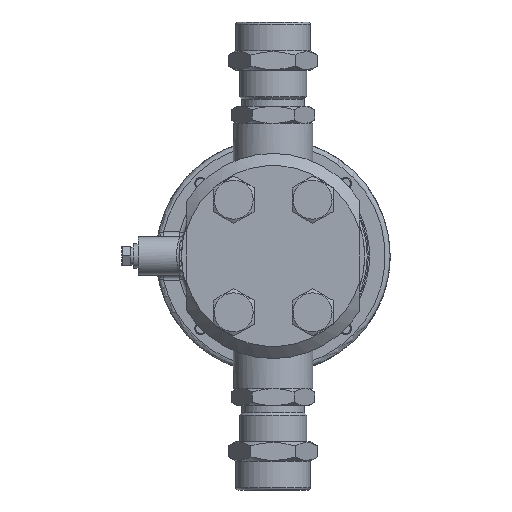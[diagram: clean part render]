
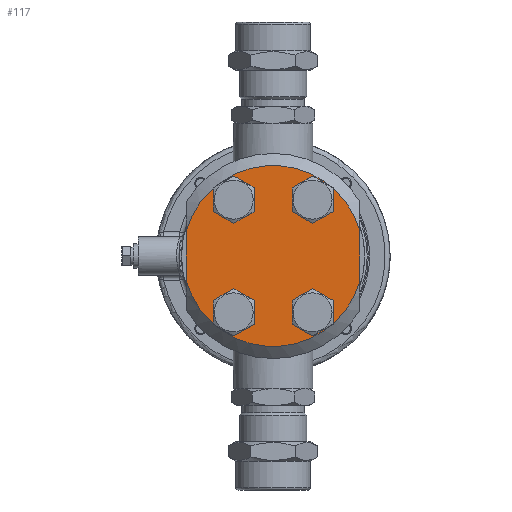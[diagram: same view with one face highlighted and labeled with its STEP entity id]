
A CAD part, front view. The second image highlights one B-rep face of the part: STEP entity #117.
In plain terms, the highlighted planar face has unit normal (0, -1, 0).
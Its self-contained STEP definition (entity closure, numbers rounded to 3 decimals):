
#117=ADVANCED_FACE('',(#4842,#4844,#4846,#4848,#4850),#4852,.T.);
#4842=FACE_BOUND('',#4843,.T.);
#4843=EDGE_LOOP('',(#19386,#19387,#19388,#19389,#19390));
#4844=FACE_BOUND('',#4845,.T.);
#4845=EDGE_LOOP('',(#19391,#19392,#19393,#19394,#19395));
#4846=FACE_BOUND('',#4847,.T.);
#4847=EDGE_LOOP('',(#19396,#19397,#19398,#19399,#19400));
#4848=FACE_BOUND('',#4849,.T.);
#4849=EDGE_LOOP('',(#19401,#19402,#19403,#19404));
#4850=FACE_OUTER_BOUND('',#4851,.T.);
#4851=EDGE_LOOP('',(#19405,#19406,#19407,#19408));
#4852=PLANE('',#4853);
#4853=AXIS2_PLACEMENT_3D('',#4854,#4855,#4856);
#4854=CARTESIAN_POINT('',(0.,-23.,0.));
#4855=DIRECTION('',(-0.,-1.,-0.));
#4856=DIRECTION('',(1.,0.,0.));
#19386=ORIENTED_EDGE('',*,*,#32064,.F.);
#19387=ORIENTED_EDGE('',*,*,#32065,.T.);
#19388=ORIENTED_EDGE('',*,*,#32066,.T.);
#19389=ORIENTED_EDGE('',*,*,#32067,.F.);
#19390=ORIENTED_EDGE('',*,*,#32068,.F.);
#19391=ORIENTED_EDGE('',*,*,#32069,.F.);
#19392=ORIENTED_EDGE('',*,*,#32070,.T.);
#19393=ORIENTED_EDGE('',*,*,#32071,.T.);
#19394=ORIENTED_EDGE('',*,*,#32072,.F.);
#19395=ORIENTED_EDGE('',*,*,#32073,.F.);
#19396=ORIENTED_EDGE('',*,*,#32074,.F.);
#19397=ORIENTED_EDGE('',*,*,#32075,.T.);
#19398=ORIENTED_EDGE('',*,*,#32076,.T.);
#19399=ORIENTED_EDGE('',*,*,#32077,.F.);
#19400=ORIENTED_EDGE('',*,*,#32078,.F.);
#19401=ORIENTED_EDGE('',*,*,#32079,.F.);
#19402=ORIENTED_EDGE('',*,*,#32056,.T.);
#19403=ORIENTED_EDGE('',*,*,#32080,.F.);
#19404=ORIENTED_EDGE('',*,*,#32081,.F.);
#19405=ORIENTED_EDGE('',*,*,#32082,.T.);
#19406=ORIENTED_EDGE('',*,*,#32083,.T.);
#19407=ORIENTED_EDGE('',*,*,#32084,.T.);
#19408=ORIENTED_EDGE('',*,*,#32085,.T.);
#32056=EDGE_CURVE('',#36424,#36429,#36431,.T.);
#32064=EDGE_CURVE('',#36446,#36447,#36448,.F.);
#32065=EDGE_CURVE('',#36446,#36449,#36450,.T.);
#32066=EDGE_CURVE('',#36449,#36451,#36452,.T.);
#32067=EDGE_CURVE('',#36453,#36451,#36454,.F.);
#32068=EDGE_CURVE('',#36447,#36453,#36455,.T.);
#32069=EDGE_CURVE('',#36456,#36457,#36458,.F.);
#32070=EDGE_CURVE('',#36456,#36459,#36460,.T.);
#32071=EDGE_CURVE('',#36459,#36461,#36462,.T.);
#32072=EDGE_CURVE('',#36463,#36461,#36464,.F.);
#32073=EDGE_CURVE('',#36457,#36463,#36465,.T.);
#32074=EDGE_CURVE('',#36466,#36467,#36468,.F.);
#32075=EDGE_CURVE('',#36466,#36469,#36470,.T.);
#32076=EDGE_CURVE('',#36469,#36471,#36472,.T.);
#32077=EDGE_CURVE('',#36473,#36471,#36474,.F.);
#32078=EDGE_CURVE('',#36467,#36473,#36475,.T.);
#32079=EDGE_CURVE('',#36424,#36476,#36477,.F.);
#32080=EDGE_CURVE('',#36478,#36429,#36479,.F.);
#32081=EDGE_CURVE('',#36476,#36478,#36480,.T.);
#32082=EDGE_CURVE('',#36481,#36482,#36483,.F.);
#32083=EDGE_CURVE('',#36482,#36484,#36485,.T.);
#32084=EDGE_CURVE('',#36484,#36486,#36487,.F.);
#32085=EDGE_CURVE('',#36486,#36481,#36488,.T.);
#36424=VERTEX_POINT('',#43672);
#36429=VERTEX_POINT('',#43685);
#36431=CIRCLE('',#43690,5.5);
#36446=VERTEX_POINT('',#43729);
#36447=VERTEX_POINT('',#43730);
#36448=LINE('',#43731,#43732);
#36449=VERTEX_POINT('',#43734);
#36450=CIRCLE('',#43735,5.5);
#36451=VERTEX_POINT('',#43739);
#36452=CIRCLE('',#43740,5.5);
#36453=VERTEX_POINT('',#43744);
#36454=LINE('',#43745,#43746);
#36455=CIRCLE('',#43748,7.6);
#36456=VERTEX_POINT('',#43752);
#36457=VERTEX_POINT('',#43753);
#36458=LINE('',#43754,#43755);
#36459=VERTEX_POINT('',#43757);
#36460=CIRCLE('',#43758,5.5);
#36461=VERTEX_POINT('',#43762);
#36462=CIRCLE('',#43763,5.5);
#36463=VERTEX_POINT('',#43767);
#36464=LINE('',#43768,#43769);
#36465=CIRCLE('',#43771,7.6);
#36466=VERTEX_POINT('',#43775);
#36467=VERTEX_POINT('',#43776);
#36468=LINE('',#43777,#43778);
#36469=VERTEX_POINT('',#43780);
#36470=CIRCLE('',#43781,5.5);
#36471=VERTEX_POINT('',#43785);
#36472=CIRCLE('',#43786,5.5);
#36473=VERTEX_POINT('',#43790);
#36474=LINE('',#43791,#43792);
#36475=CIRCLE('',#43794,7.6);
#36476=VERTEX_POINT('',#43798);
#36477=LINE('',#43799,#43800);
#36478=VERTEX_POINT('',#43802);
#36479=LINE('',#43803,#43804);
#36480=CIRCLE('',#43806,7.6);
#36481=VERTEX_POINT('',#43810);
#36482=VERTEX_POINT('',#43811);
#36483=LINE('',#43812,#43813);
#36484=VERTEX_POINT('',#43815);
#36485=CIRCLE('',#43816,37.5);
#36486=VERTEX_POINT('',#43820);
#36487=LINE('',#43821,#43822);
#36488=CIRCLE('',#43824,37.5);
#43672=CARTESIAN_POINT('',(-11.024,-23.,-21.96));
#43685=CARTESIAN_POINT('',(-10.868,-23.,-23.822));
#43690=AXIS2_PLACEMENT_3D('',#43691,#43692,#43693);
#43691=CARTESIAN_POINT('',(-16.347,-23.,-23.346));
#43692=DIRECTION('',(0.,1.,-0.));
#43693=DIRECTION('',(0.968,0.,0.252));
#43729=CARTESIAN_POINT('',(21.669,-23.,-21.96));
#43730=CARTESIAN_POINT('',(23.819,-23.,-21.96));
#43731=CARTESIAN_POINT('',(23.819,-23.,-21.96));
#43732=VECTOR('',#43733,1.);
#43733=DIRECTION('',(-1.,0.,0.));
#43734=CARTESIAN_POINT('',(21.847,-23.,-23.346));
#43735=AXIS2_PLACEMENT_3D('',#43736,#43737,#43738);
#43736=CARTESIAN_POINT('',(16.347,-23.,-23.346));
#43737=DIRECTION('',(-0.,1.,0.));
#43738=DIRECTION('',(0.968,0.,0.252));
#43739=CARTESIAN_POINT('',(21.826,-23.,-23.822));
#43740=AXIS2_PLACEMENT_3D('',#43741,#43742,#43743);
#43741=CARTESIAN_POINT('',(16.347,-23.,-23.346));
#43742=DIRECTION('',(-0.,1.,0.));
#43743=DIRECTION('',(1.,0.,0.));
#43744=CARTESIAN_POINT('',(23.932,-23.,-23.822));
#43745=CARTESIAN_POINT('',(21.826,-23.,-23.822));
#43746=VECTOR('',#43747,1.);
#43747=DIRECTION('',(1.,0.,0.));
#43748=AXIS2_PLACEMENT_3D('',#43749,#43750,#43751);
#43749=CARTESIAN_POINT('',(16.347,-23.,-23.346));
#43750=DIRECTION('',(0.,-1.,0.));
#43751=DIRECTION('',(0.983,0.,0.182));
#43752=CARTESIAN_POINT('',(21.669,-23.,24.732));
#43753=CARTESIAN_POINT('',(23.819,-23.,24.732));
#43754=CARTESIAN_POINT('',(23.819,-23.,24.732));
#43755=VECTOR('',#43756,1.);
#43756=DIRECTION('',(-1.,0.,0.));
#43757=CARTESIAN_POINT('',(21.847,-23.,23.346));
#43758=AXIS2_PLACEMENT_3D('',#43759,#43760,#43761);
#43759=CARTESIAN_POINT('',(16.347,-23.,23.346));
#43760=DIRECTION('',(-0.,1.,0.));
#43761=DIRECTION('',(0.968,0.,0.252));
#43762=CARTESIAN_POINT('',(21.826,-23.,22.87));
#43763=AXIS2_PLACEMENT_3D('',#43764,#43765,#43766);
#43764=CARTESIAN_POINT('',(16.347,-23.,23.346));
#43765=DIRECTION('',(-0.,1.,0.));
#43766=DIRECTION('',(1.,0.,0.));
#43767=CARTESIAN_POINT('',(23.932,-23.,22.87));
#43768=CARTESIAN_POINT('',(21.826,-23.,22.87));
#43769=VECTOR('',#43770,1.);
#43770=DIRECTION('',(1.,0.,0.));
#43771=AXIS2_PLACEMENT_3D('',#43772,#43773,#43774);
#43772=CARTESIAN_POINT('',(16.347,-23.,23.346));
#43773=DIRECTION('',(0.,-1.,0.));
#43774=DIRECTION('',(0.983,0.,0.182));
#43775=CARTESIAN_POINT('',(-11.024,-23.,24.732));
#43776=CARTESIAN_POINT('',(-8.874,-23.,24.732));
#43777=CARTESIAN_POINT('',(-8.874,-23.,24.732));
#43778=VECTOR('',#43779,1.);
#43779=DIRECTION('',(-1.,0.,0.));
#43780=CARTESIAN_POINT('',(-10.847,-23.,23.346));
#43781=AXIS2_PLACEMENT_3D('',#43782,#43783,#43784);
#43782=CARTESIAN_POINT('',(-16.347,-23.,23.346));
#43783=DIRECTION('',(-0.,1.,0.));
#43784=DIRECTION('',(0.968,0.,0.252));
#43785=CARTESIAN_POINT('',(-10.868,-23.,22.87));
#43786=AXIS2_PLACEMENT_3D('',#43787,#43788,#43789);
#43787=CARTESIAN_POINT('',(-16.347,-23.,23.346));
#43788=DIRECTION('',(-0.,1.,0.));
#43789=DIRECTION('',(1.,0.,0.));
#43790=CARTESIAN_POINT('',(-8.762,-23.,22.87));
#43791=CARTESIAN_POINT('',(-10.868,-23.,22.87));
#43792=VECTOR('',#43793,1.);
#43793=DIRECTION('',(1.,0.,0.));
#43794=AXIS2_PLACEMENT_3D('',#43795,#43796,#43797);
#43795=CARTESIAN_POINT('',(-16.347,-23.,23.346));
#43796=DIRECTION('',(0.,-1.,0.));
#43797=DIRECTION('',(0.983,0.,0.182));
#43798=CARTESIAN_POINT('',(-8.874,-23.,-21.96));
#43799=CARTESIAN_POINT('',(-8.874,-23.,-21.96));
#43800=VECTOR('',#43801,1.);
#43801=DIRECTION('',(-1.,0.,0.));
#43802=CARTESIAN_POINT('',(-8.762,-23.,-23.822));
#43803=CARTESIAN_POINT('',(-10.868,-23.,-23.822));
#43804=VECTOR('',#43805,1.);
#43805=DIRECTION('',(1.,0.,0.));
#43806=AXIS2_PLACEMENT_3D('',#43807,#43808,#43809);
#43807=CARTESIAN_POINT('',(-16.347,-23.,-23.346));
#43808=DIRECTION('',(0.,-1.,0.));
#43809=DIRECTION('',(0.983,0.,0.182));
#43810=CARTESIAN_POINT('',(36.,-23.,-10.5));
#43811=CARTESIAN_POINT('',(36.,-23.,10.5));
#43812=CARTESIAN_POINT('',(36.,-23.,10.5));
#43813=VECTOR('',#43814,1.);
#43814=DIRECTION('',(0.,0.,-1.));
#43815=CARTESIAN_POINT('',(-36.,-23.,10.5));
#43816=AXIS2_PLACEMENT_3D('',#43817,#43818,#43819);
#43817=CARTESIAN_POINT('',(0.,-23.,0.));
#43818=DIRECTION('',(0.,-1.,0.));
#43819=DIRECTION('',(0.96,0.,0.28));
#43820=CARTESIAN_POINT('',(-36.,-23.,-10.5));
#43821=CARTESIAN_POINT('',(-36.,-23.,-10.5));
#43822=VECTOR('',#43823,1.);
#43823=DIRECTION('',(0.,0.,1.));
#43824=AXIS2_PLACEMENT_3D('',#43825,#43826,#43827);
#43825=CARTESIAN_POINT('',(0.,-23.,0.));
#43826=DIRECTION('',(0.,-1.,0.));
#43827=DIRECTION('',(-0.96,0.,-0.28));
